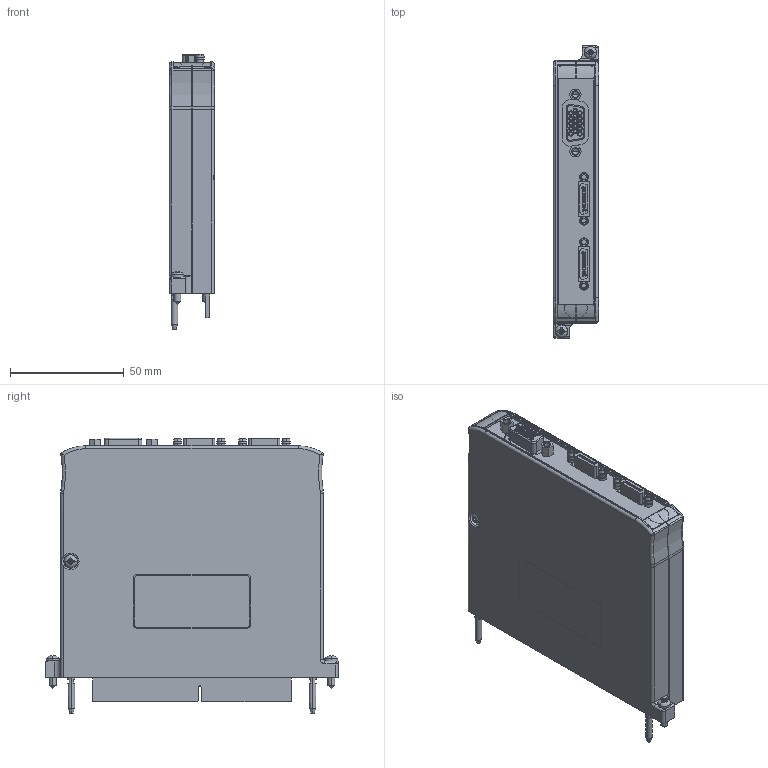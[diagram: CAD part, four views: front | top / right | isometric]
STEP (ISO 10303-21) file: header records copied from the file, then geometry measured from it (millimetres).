
FILE_DESCRIPTION((''),'2;1');
FILE_NAME('CU_NI-4183','2011-02-17T',('jjorden'),(''),'PRO/ENGINEER BY PARAMETRIC TECHNOLOGY CORPORATION, 2010230','PRO/ENGINEER BY PARAMETRIC TECHNOLOGY CORPORATION, 2010230','');
FILE_SCHEMA(('CONFIG_CONTROL_DESIGN'));
Products named in the file (1): CU_NI-4183
Bounding box: 20.12 x 128.65 x 121.06 mm (x, y, z)
Volume: 59196.5 mm3; surface area: 93884.3 mm2
Topology: 2 solids, 2 shells, 2658 faces, 6850 edges, 4360 vertices
Faces by surface type: plane 1810, cylinder 494, cone 174, bspline 98, torus 42, sphere 40
Entity records: 87310 total; most frequent: CARTESIAN_POINT 22287, ORIENTED_EDGE 13620, DIRECTION 12973, EDGE_CURVE 6810, VECTOR 4879, LINE 4879, VERTEX_POINT 4512, AXIS2_PLACEMENT_3D 4047
